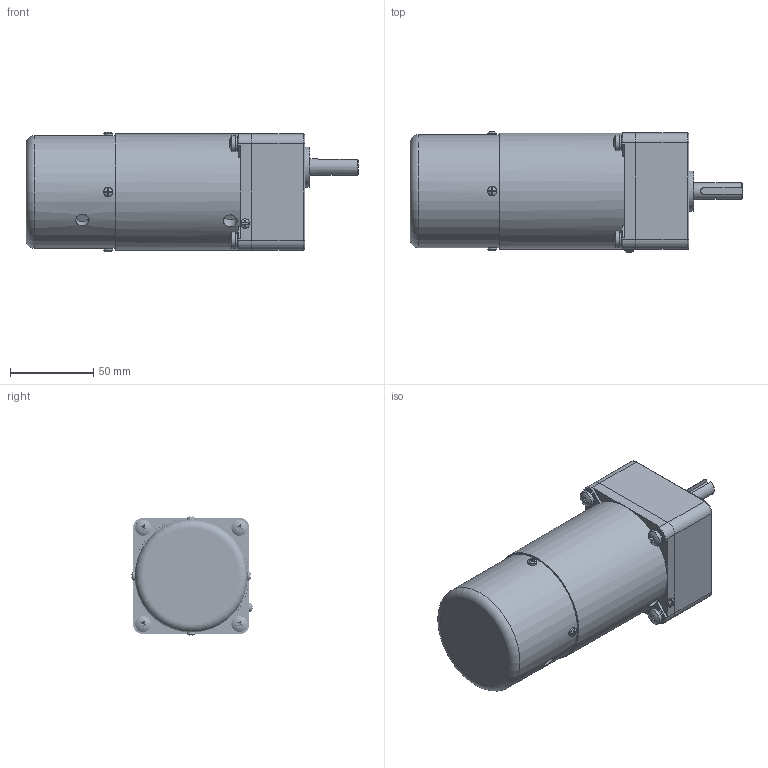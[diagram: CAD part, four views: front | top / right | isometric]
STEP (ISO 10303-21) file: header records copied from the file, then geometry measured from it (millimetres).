
FILE_DESCRIPTION(/* description */ (''),/* implementation_level */ '2;1');
FILE_NAME(/* name */ '70矮箱L-25刹车.stp',/* time_stamp */ '2022-10-31T09:42:43+08:00',/* author */ (''),/* organization */ (''),/* preprocessor_version */ 'ST-DEVELOPER v16.7',/* originating_system */ 'SIEMENS PLM Software NX 1899',/* authorisation */ '');
FILE_SCHEMA (('AP203_CONFIGURATION_CONTROLLED_3D_DESIGN_OF_MECHANICAL_PARTS_AND_ASSEMBLIES_MIM_LF { 1 0 10303 403 2 1 2}'));
Products named in the file (1): yf186188FEB6lcci
Bounding box: 200 x 73.08 x 72.08 mm (x, y, z)
Volume: 674292.9 mm3; surface area: 66653.2 mm2
Topology: 14 solids, 15 shells, 355 faces, 912 edges, 608 vertices
Faces by surface type: plane 171, bspline 88, cylinder 69, torus 11, sphere 9, cone 7
Full cylindrical faces by diameter (mm): 2.7 x1, 4.826 x4, 5 x4, 5.3 x4, 5.6 x5, 6 x5, 8 x1, 8.3 x1, 9 x4, 9.5 x4, 10 x1, 24 x1, 63 x1, 66.6 x2, 68 x1, 70 x1
Entity records: 56523 total; most frequent: CARTESIAN_POINT 48518, ORIENTED_EDGE 1608, DIRECTION 1347, EDGE_CURVE 804, VERTEX_POINT 562, AXIS2_PLACEMENT_3D 536, EDGE_LOOP 461, ADVANCED_FACE 355
